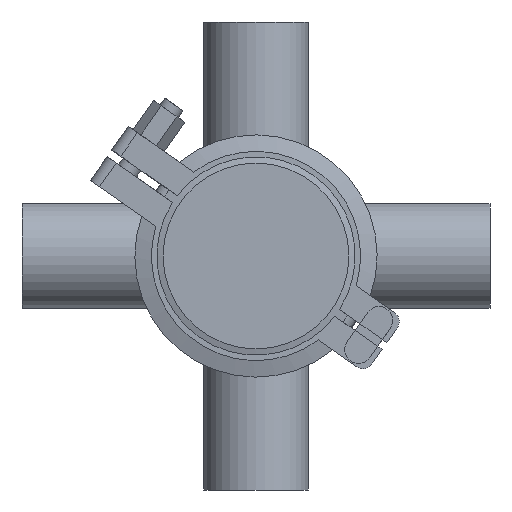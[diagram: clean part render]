
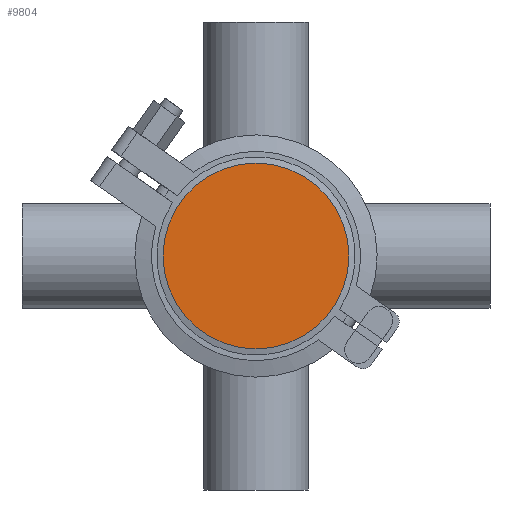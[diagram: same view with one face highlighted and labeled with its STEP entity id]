
A CAD part, front view. The second image highlights one B-rep face of the part: STEP entity #9804.
In plain terms, the highlighted planar face has unit normal (0, -1, 0).
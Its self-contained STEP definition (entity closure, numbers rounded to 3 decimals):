
#657 = CARTESIAN_POINT ( 'NONE',  ( 0., 0., 0. ) ) ;
#1158 = CARTESIAN_POINT ( 'NONE',  ( -33.75, 0., 0. ) ) ;
#3430 = EDGE_CURVE ( 'NONE', #12164, #12164, #10718, .T. ) ;
#6033 = DIRECTION ( 'NONE',  ( 0., 0., -1. ) ) ;
#6128 = FACE_OUTER_BOUND ( 'NONE', #15906, .T. ) ;
#6976 = AXIS2_PLACEMENT_3D ( 'NONE', #1158, #19706, #6033 ) ;
#7468 = AXIS2_PLACEMENT_3D ( 'NONE', #657, #17685, #14359 ) ;
#7681 = CARTESIAN_POINT ( 'NONE',  ( 0., 0., 33.75 ) ) ;
#9804 = ADVANCED_FACE ( 'NONE', ( #6128 ), #13540, .T. ) ;
#10677 = ORIENTED_EDGE ( 'NONE', *, *, #3430, .F. ) ;
#10718 = CIRCLE ( 'NONE', #7468, 33.75 ) ;
#12164 = VERTEX_POINT ( 'NONE', #7681 ) ;
#13540 = PLANE ( 'NONE',  #6976 ) ;
#14359 = DIRECTION ( 'NONE',  ( 0., 0., 1. ) ) ;
#15906 = EDGE_LOOP ( 'NONE', ( #10677 ) ) ;
#17685 = DIRECTION ( 'NONE',  ( 0., 1., 0. ) ) ;
#19706 = DIRECTION ( 'NONE',  ( 0., -1., 0. ) ) ;
